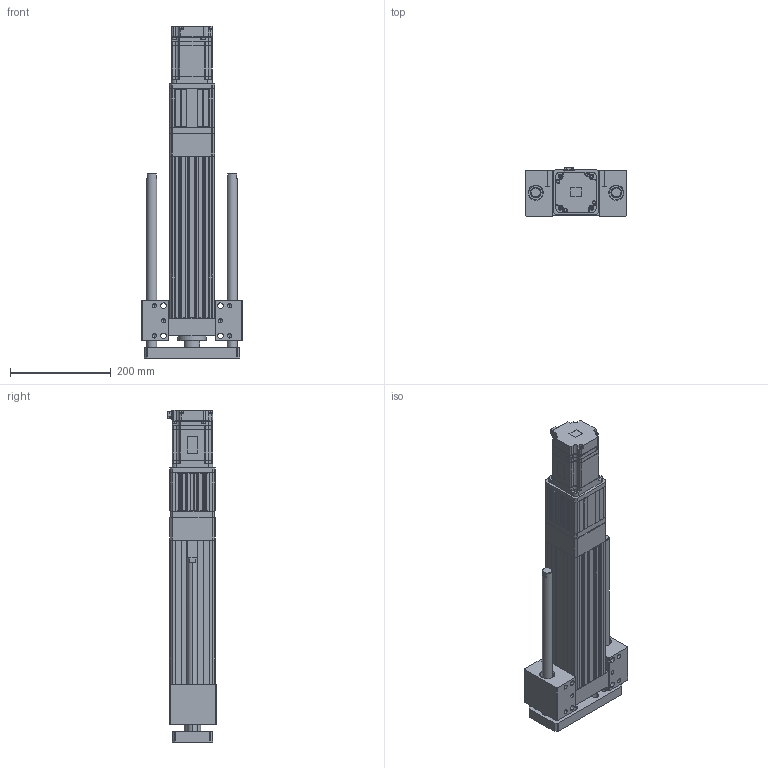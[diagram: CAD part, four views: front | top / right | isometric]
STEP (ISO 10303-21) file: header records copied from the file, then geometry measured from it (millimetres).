
FILE_DESCRIPTION (( 'STEP AP203' ), '1' );
FILE_NAME ('ANS090R-HS200-05(10)(20)-W75.STEP', '2019-03-02T09:18:33', ( 'user' ), ( '' ), 'SwSTEP 2.0', 'SolidWorks 2013', '' );
FILE_SCHEMA (( 'CONFIG_CONTROL_DESIGN' ));
Length unit declared in the file: millimetre
Products named in the file (4): ANS090R-HS200-05(10)(20)-W75; ANS090R HS200 VER2; SGMJV_08A_A21; ANS090 ROD ST200-H
Assembly tree (3 placements, depth 2):
  ANS090R-HS200-05(10)(20)-W75
    ANS090R HS200 VER2
    SGMJV_08A_A21
    ANS090 ROD ST200-H
Bounding box: 200 x 95.8 x 660.1 mm (x, y, z)
Volume: 4069865.8 mm3; surface area: 646891.3 mm2
Topology: 3 solids, 3 shells, 1600 faces, 4288 edges, 2780 vertices
Faces by surface type: plane 982, cylinder 486, cone 128, bspline 4
Entity records: 50298 total; most frequent: CARTESIAN_POINT 9440, ORIENTED_EDGE 8528, DIRECTION 8312, EDGE_CURVE 4264, VECTOR 3080, LINE 3080, VERTEX_POINT 2780, AXIS2_PLACEMENT_3D 2616
